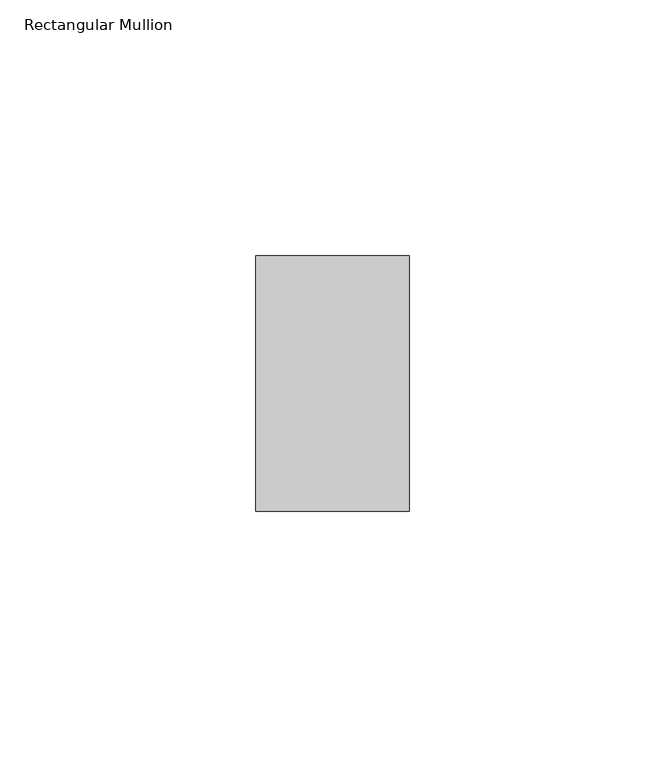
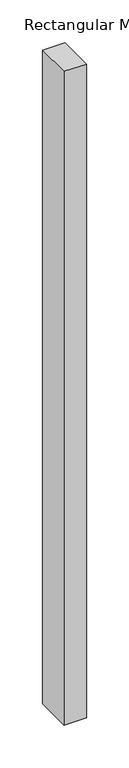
"""IFC4 building model written with IfcOpenShell, lengths in millimetres: member geometry, Rectangular Mullion : ARQ_TV_MULL_50x30mm."""

from ifc_helpers import new_model, si_unit, frame, origin, place, context, project, spatial, polyline, outline, extrude, source, transform, mapped, element, save


def rectangular_mullion_1122452d(model_context):
    return source(origin(), model_context, "Body", "SweptSolid", [
        extrude(outline(polyline([(15.0, 25.0), (15.0, -25.0), (-15.0, -25.0), (-15.0, 25.0), (15.0, 25.0)])), frame((0.0, 0.0, -931.5170125), z_axis=(0.0, 0.0, 1.0), x_axis=(1.0, 0.0, 0.0)), (0.0, 0.0, 1.0), 931.5170125),
    ])


if __name__ == "__main__":
    model = new_model("IFC4")
    model_context = context("Model", 3, world=origin())
    ifc_project = project(units=[si_unit("LENGTHUNIT", "METRE", prefix="MILLI")], contexts=[model_context])
    site = spatial("IfcSite", under=ifc_project)
    building = spatial("IfcBuilding", under=site)
    placement = place(None, origin())
    rectangular_mullion_shape = rectangular_mullion_1122452d(model_context)
    element("IfcMember", 1, ObjectType="Rectangular Mullion : ARQ_TV_MULL_50x30mm", at=placement, inside=building, context=model_context, shape_type="MappedRepresentation", body=[
        mapped(rectangular_mullion_shape, transform((0.0, 0.0, 0.0), x_axis=(1.0, 0.0, 0.0), y_axis=(0.0, 1.0, 0.0), z_axis=(0.0, 0.0, 1.0))),
    ])
    save(model, "model.ifc")
